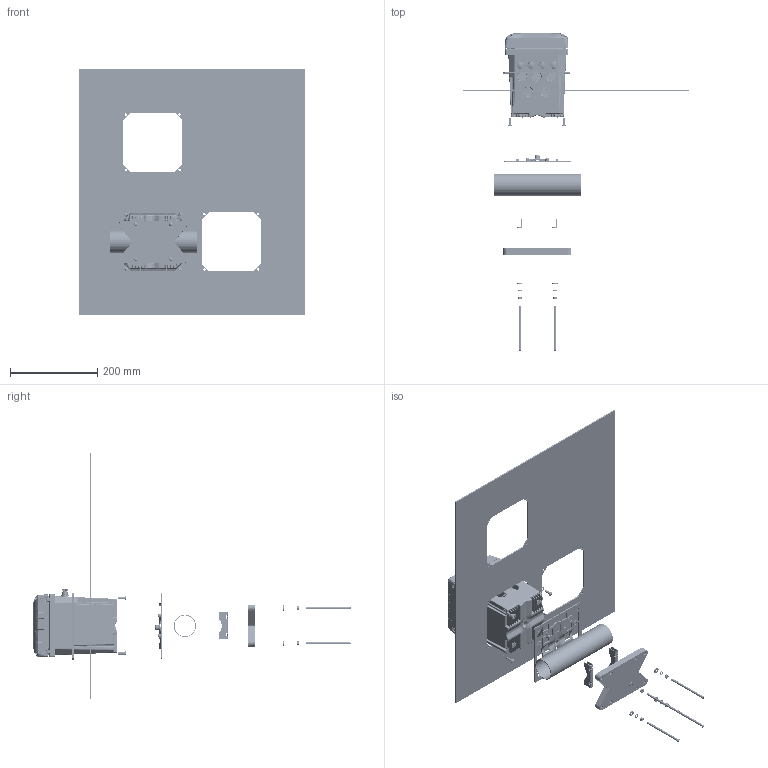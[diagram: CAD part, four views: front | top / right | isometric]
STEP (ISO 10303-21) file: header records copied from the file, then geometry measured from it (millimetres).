
FILE_DESCRIPTION (( 'STEP AP214' ), '1' );
FILE_NAME ('LXV524.TD.10000__001.STEP', '2018-04-05T06:51:27', ( '' ), ( '' ), 'SwSTEP 2.0', 'SolidWorks 2017', '' );
FILE_SCHEMA (( 'AUTOMOTIVE_DESIGN' ));
Length unit declared in the file: millimetre
Products named in the file (40): 8814500#01_CAPTIVE FASTENER; GroupMountingPanel_D‚faut; 1005052_Alu. machined back enclosure_D‚faut; 1005049_Overmolded USB cover_1005049; B18.6.7M - M5 x 0.8 x 16 Type I Cross Recessed PHMS --16N_B18.6.7M - M5 x 0.8 x 16 Type I Cross Recessed PHMS --16N; 1005025_Front Door_D‚faut; 8814900_Gasket Set_Concept1 changes; EFD005_Druckfeder_D‚faut; 8788300_Braket Pole Wall; LXV524.TD.10000__001; EVQ299_Gewindeeinsatz UNC 8-32; 1000C4F3217-101_FAB-Bracket,Mounting_D‚faut; 1005044_Overmolded front door_1005044; ZBA1348_Carrier Board_D‚faut; B18.2.4.1M - Hex nut, Style 1,  M5 x 0.8 --D-N_B18.2.4.1M - Hex nut, Style 1,  M5 x 0.8 --D-N; 71100_sc cable for SC4X00c_D‚faut; Internal Tooth LW Type A-0.19_Internal Tooth LW Type A-0.19; 71101_Ethernet cable for SC4X00c_D‚faut; Preferred Narrow FW 0.19_Preferred Narrow FW 0.19; 1005056_SC and ethernet counternut_D‚faut; 1005026#01_2 inches tube_D‚faut; XME212_Federkraftklemme 2-polig_D‚faut; 1005027_Back enclosure_D‚faut; XME211_Federkraftklemme 3-polig_D‚faut; 9202300_crew M3 x 0,5 x 6mm_D‚faut; XMG874_Schutzkappe Serie 763; B18.21.2M-Internal Tooth Lock Washers_BM3_B18.21.2M-Internal Tooth Lock Washers_BM3; 61421_Switching Power Supply_D‚faut; B18.6.7M - M3 x 0.5 x 6 Type I Cross Recessed PHMS --6N_B18.6.7M - M3 x 0.5 x 6 Type I Cross Recessed PHMS --6N; 1005037_Panel Cutout template; 9201900_Screw M4 x 0,7 x 6mm_D‚faut; HDB018_Badge, Hach 0,5; B18.21.2M-Internal Tooth Lock Washers_BM4_B18.21.2M-Internal Tooth Lock Washers_BM4; 1005028_Keypad_Mounted; B18.6.7M - M4 x 0.7 x 6 Type I Cross Recessed PHMS --6N_B18.6.7M - M4 x 0.7 x 6 Type I Cross Recessed PHMS --6N; 1005030_Hing pin_D‚faut; 8814900_8814900_2; EDE806_Haftetikett (Erdungssymbol)_D‚faut; 1005026_USB cover_D‚faut; 1005026#03_Flachkopfschraube mit Kreuzschlitz M5x100_ISO 7045 - M3 x 12 - Z --- 12N
Assembly tree (76 placements, depth 4):
  LXV524.TD.10000__001
    1005027_Back enclosure_D‚faut
      1005052_Alu. machined back enclosure_D‚faut
      EDE806_Haftetikett (Erdungssymbol)_D‚faut  x2
      9201900_Screw M4 x 0,7 x 6mm_D‚faut
        B18.6.7M - M4 x 0.7 x 6 Type I Cross Recessed PHMS --6N_B18.6.7M - M4 x 0.7 x 6 Type I Cross Recessed PHMS --6N
        B18.21.2M-Internal Tooth Lock Washers_BM4_B18.21.2M-Internal Tooth Lock Washers_BM4
      9202300_crew M3 x 0,5 x 6mm_D‚faut  x2
        B18.6.7M - M3 x 0.5 x 6 Type I Cross Recessed PHMS --6N_B18.6.7M - M3 x 0.5 x 6 Type I Cross Recessed PHMS --6N
        B18.21.2M-Internal Tooth Lock Washers_BM3_B18.21.2M-Internal Tooth Lock Washers_BM3
    1005056_SC and ethernet counternut_D‚faut  x4
    71101_Ethernet cable for SC4X00c_D‚faut  x2
    71100_sc cable for SC4X00c_D‚faut  x2
    ZBA1348_Carrier Board_D‚faut
    1005025_Front Door_D‚faut
      1005044_Overmolded front door_1005044
      EVQ299_Gewindeeinsatz UNC 8-32  x2
      EFD005_Druckfeder_D‚faut  x2
    1005026_USB cover_D‚faut
      1005049_Overmolded USB cover_1005049
      8814500#01_CAPTIVE FASTENER  x2
    1005030_Hing pin_D‚faut
    1005028_Keypad_Mounted
    HDB018_Badge, Hach 0,5
    1005037_Panel Cutout template  x4
    61421_Switching Power Supply_D‚faut
    XMG874_Schutzkappe Serie 763  x4
    XME211_Federkraftklemme 3-polig_D‚faut  x2
    XME212_Federkraftklemme 2-polig_D‚faut
    1005026#01_2 inches tube_D‚faut
    Preferred Narrow FW 0.19_Preferred Narrow FW 0.19  x4
    Internal Tooth LW Type A-0.19_Internal Tooth LW Type A-0.19  x8
    B18.2.4.1M - Hex nut, Style 1,  M5 x 0.8 --D-N_B18.2.4.1M - Hex nut, Style 1,  M5 x 0.8 --D-N  x4
    1000C4F3217-101_FAB-Bracket,Mounting_D‚faut
    8788300_Braket Pole Wall  x2
    8814900_Gasket Set_Concept1 changes
    B18.6.7M - M5 x 0.8 x 16 Type I Cross Recessed PHMS --16N_B18.6.7M - M5 x 0.8 x 16 Type I Cross Recessed PHMS --16N  x4
    GroupMountingPanel_D‚faut
    1005026#03_Flachkopfschraube mit Kreuzschlitz M5x100_ISO 7045 - M3 x 12 - Z --- 12N  x4
    8814900_8814900_2
Bounding box: 515.4 x 726.47 x 563.4 mm (x, y, z)
Volume: 1502701.7 mm3; surface area: 1155041.6 mm2
Topology: 108 solids, 116 shells, 17783 faces, 45781 edges, 28276 vertices
Faces by surface type: plane 7489, cylinder 5205, bspline 3621, cone 868, torus 315, sphere 285
Entity records: 615720 total; most frequent: CARTESIAN_POINT 221012, ORIENTED_EDGE 75478, DIRECTION 61133, EDGE_CURVE 37739, VERTEX_POINT 23450, AXIS2_PLACEMENT_3D 21115, VECTOR 18903, LINE 18903
